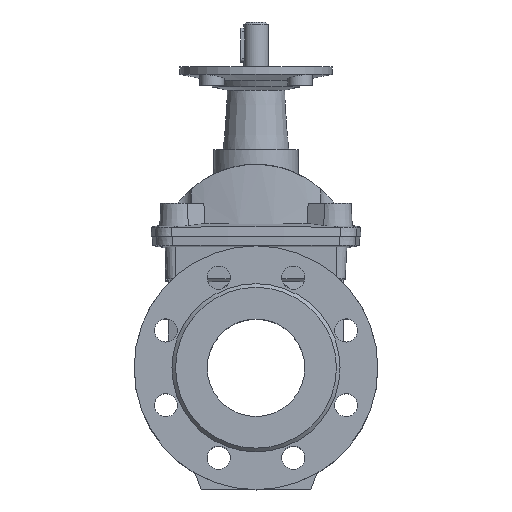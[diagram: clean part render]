
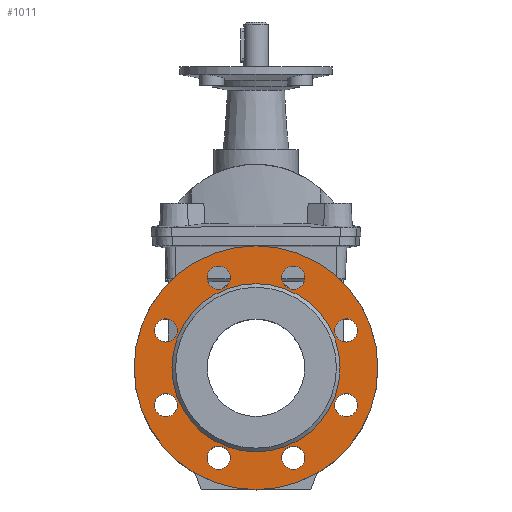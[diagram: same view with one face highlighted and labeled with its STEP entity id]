
A CAD part, top view. The second image highlights one B-rep face of the part: STEP entity #1011.
In plain terms, the highlighted planar face has unit normal (0, 0, 1).
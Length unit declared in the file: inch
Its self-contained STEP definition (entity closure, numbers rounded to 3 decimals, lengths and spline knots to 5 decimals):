
#523 = ORIENTED_EDGE ( 'NONE', *, *, #1793, .T. ) ;
#527 = ORIENTED_EDGE ( 'NONE', *, *, #1784, .F. ) ;
#529 = ORIENTED_EDGE ( 'NONE', *, *, #1782, .F. ) ;
#530 = ORIENTED_EDGE ( 'NONE', *, *, #1792, .F. ) ;
#538 = ORIENTED_EDGE ( 'NONE', *, *, #1758, .F. ) ;
#540 = ORIENTED_EDGE ( 'NONE', *, *, #1769, .T. ) ;
#541 = ORIENTED_EDGE ( 'NONE', *, *, #1776, .T. ) ;
#567 = ORIENTED_EDGE ( 'NONE', *, *, #1788, .T. ) ;
#575 = ORIENTED_EDGE ( 'NONE', *, *, #1765, .F. ) ;
#581 = ORIENTED_EDGE ( 'NONE', *, *, #1777, .T. ) ;
#737 = EDGE_LOOP ( 'NONE', ( #567 ) ) ;
#738 = EDGE_LOOP ( 'NONE', ( #575 ) ) ;
#740 = EDGE_LOOP ( 'NONE', ( #538 ) ) ;
#745 = EDGE_LOOP ( 'NONE', ( #540 ) ) ;
#755 = EDGE_LOOP ( 'NONE', ( #541 ) ) ;
#758 = EDGE_LOOP ( 'NONE', ( #581 ) ) ;
#768 = EDGE_LOOP ( 'NONE', ( #523 ) ) ;
#772 = EDGE_LOOP ( 'NONE', ( #529 ) ) ;
#775 = EDGE_LOOP ( 'NONE', ( #527 ) ) ;
#776 = EDGE_LOOP ( 'NONE', ( #530 ) ) ;
#1011 = ADVANCED_FACE ( 'NONE', ( #6306, #6309, #6304, #6302, #6307, #6310, #6311, #6312, #6313, #6314 ), #4622, .T. ) ;
#1495 = CARTESIAN_POINT ( 'NONE',  ( -1.2053, 2.90986, 3.4252 ) ) ;
#1496 = DIRECTION ( 'NONE',  ( 0., 0., 1. ) ) ;
#1497 = DIRECTION ( 'NONE',  ( 1., 0., 0. ) ) ;
#1510 = CARTESIAN_POINT ( 'NONE',  ( 0., 0., 3.4252 ) ) ;
#1511 = DIRECTION ( 'NONE',  ( 0., 0., 1. ) ) ;
#1512 = DIRECTION ( 'NONE',  ( 0., -1., 0. ) ) ;
#1536 = CARTESIAN_POINT ( 'NONE',  ( 2.90986, 1.2053, 3.4252 ) ) ;
#1537 = DIRECTION ( 'NONE',  ( 0., 0., -1. ) ) ;
#1538 = DIRECTION ( 'NONE',  ( -1., 0., 0. ) ) ;
#1570 = CARTESIAN_POINT ( 'NONE',  ( 1.2053, -2.90986, 3.4252 ) ) ;
#1571 = DIRECTION ( 'NONE',  ( 0., 0., -1. ) ) ;
#1572 = DIRECTION ( 'NONE',  ( -1., 0., 0. ) ) ;
#1574 = CARTESIAN_POINT ( 'NONE',  ( 2.90986, -1.2053, 3.4252 ) ) ;
#1575 = DIRECTION ( 'NONE',  ( 0., 0., -1. ) ) ;
#1576 = DIRECTION ( 'NONE',  ( -1., 0., 0. ) ) ;
#1587 = AXIS2_PLACEMENT_3D ( 'NONE', #4624, #4617, #4626 ) ;
#1758 = EDGE_CURVE ( 'NONE', #9928, #9928, #6598, .T. ) ;
#1765 = EDGE_CURVE ( 'NONE', #9929, #9929, #6611, .T. ) ;
#1769 = EDGE_CURVE ( 'NONE', #9931, #9931, #6618, .T. ) ;
#1776 = EDGE_CURVE ( 'NONE', #9934, #9934, #6621, .T. ) ;
#1777 = EDGE_CURVE ( 'NONE', #9935, #9935, #6626, .T. ) ;
#1782 = EDGE_CURVE ( 'NONE', #9938, #9938, #6631, .T. ) ;
#1784 = EDGE_CURVE ( 'NONE', #9939, #9939, #6634, .T. ) ;
#1788 = EDGE_CURVE ( 'NONE', #9941, #9941, #6633, .T. ) ;
#1792 = EDGE_CURVE ( 'NONE', #9943, #9943, #6637, .T. ) ;
#1793 = EDGE_CURVE ( 'NONE', #9944, #9944, #6642, .T. ) ;
#3205 = CARTESIAN_POINT ( 'NONE',  ( -2.90986, 1.2053, 3.4252 ) ) ;
#3206 = DIRECTION ( 'NONE',  ( 0., 0., 1. ) ) ;
#3207 = DIRECTION ( 'NONE',  ( 1., 0., 0. ) ) ;
#3212 = CARTESIAN_POINT ( 'NONE',  ( -2.90986, -1.2053, 3.4252 ) ) ;
#3213 = DIRECTION ( 'NONE',  ( 0., 0., 1. ) ) ;
#3214 = DIRECTION ( 'NONE',  ( 1., 0., 0. ) ) ;
#3225 = CARTESIAN_POINT ( 'NONE',  ( 0., 0., 3.4252 ) ) ;
#3226 = DIRECTION ( 'NONE',  ( 0., 0., 1. ) ) ;
#3227 = DIRECTION ( 'NONE',  ( 0., -1., 0. ) ) ;
#3236 = CARTESIAN_POINT ( 'NONE',  ( -1.2053, -2.90986, 3.4252 ) ) ;
#3237 = DIRECTION ( 'NONE',  ( 0., 0., 1. ) ) ;
#3238 = DIRECTION ( 'NONE',  ( 1., 0., 0. ) ) ;
#3240 = CARTESIAN_POINT ( 'NONE',  ( 1.2053, 2.90986, 3.4252 ) ) ;
#3241 = DIRECTION ( 'NONE',  ( 0., 0., -1. ) ) ;
#3242 = DIRECTION ( 'NONE',  ( -1., 0., 0. ) ) ;
#4617 = DIRECTION ( 'NONE',  ( 0., 0., 1. ) ) ;
#4622 = PLANE ( 'NONE',  #1587 ) ;
#4624 = CARTESIAN_POINT ( 'NONE',  ( 0., 2.71654, 3.4252 ) ) ;
#4626 = DIRECTION ( 'NONE',  ( 0., -1., 0. ) ) ;
#5922 = CARTESIAN_POINT ( 'NONE',  ( -0.83129, 2.90986, 3.4252 ) ) ;
#5923 = CARTESIAN_POINT ( 'NONE',  ( 0., -2.71654, 3.4252 ) ) ;
#5925 = CARTESIAN_POINT ( 'NONE',  ( 2.53584, 1.2053, 3.4252 ) ) ;
#5928 = CARTESIAN_POINT ( 'NONE',  ( 0.83129, -2.90986, 3.4252 ) ) ;
#5929 = CARTESIAN_POINT ( 'NONE',  ( 2.53584, -1.2053, 3.4252 ) ) ;
#5932 = CARTESIAN_POINT ( 'NONE',  ( -2.53584, 1.2053, 3.4252 ) ) ;
#5933 = CARTESIAN_POINT ( 'NONE',  ( -2.53584, -1.2053, 3.4252 ) ) ;
#5935 = CARTESIAN_POINT ( 'NONE',  ( 0., -3.93701, 3.4252 ) ) ;
#5937 = CARTESIAN_POINT ( 'NONE',  ( -0.83129, -2.90986, 3.4252 ) ) ;
#5938 = CARTESIAN_POINT ( 'NONE',  ( 0.83129, 2.90986, 3.4252 ) ) ;
#6302 = FACE_BOUND ( 'NONE', #768, .T. ) ;
#6304 = FACE_BOUND ( 'NONE', #745, .T. ) ;
#6306 = FACE_BOUND ( 'NONE', #755, .T. ) ;
#6307 = FACE_BOUND ( 'NONE', #776, .T. ) ;
#6309 = FACE_BOUND ( 'NONE', #758, .T. ) ;
#6310 = FACE_BOUND ( 'NONE', #775, .T. ) ;
#6311 = FACE_BOUND ( 'NONE', #772, .T. ) ;
#6312 = FACE_BOUND ( 'NONE', #740, .T. ) ;
#6313 = FACE_OUTER_BOUND ( 'NONE', #737, .T. ) ;
#6314 = FACE_BOUND ( 'NONE', #738, .T. ) ;
#6598 = CIRCLE ( 'NONE', #9041, 0.37402 ) ;
#6611 = CIRCLE ( 'NONE', #9042, 2.71654 ) ;
#6618 = CIRCLE ( 'NONE', #9044, 0.37402 ) ;
#6621 = CIRCLE ( 'NONE', #9049, 0.37402 ) ;
#6626 = CIRCLE ( 'NONE', #9050, 0.37402 ) ;
#6631 = CIRCLE ( 'NONE', #9053, 0.37402 ) ;
#6633 = CIRCLE ( 'NONE', #9056, 3.93701 ) ;
#6634 = CIRCLE ( 'NONE', #9054, 0.37402 ) ;
#6637 = CIRCLE ( 'NONE', #9058, 0.37402 ) ;
#6642 = CIRCLE ( 'NONE', #9059, 0.37402 ) ;
#9041 = AXIS2_PLACEMENT_3D ( 'NONE', #1495, #1496, #1497 ) ;
#9042 = AXIS2_PLACEMENT_3D ( 'NONE', #1510, #1511, #1512 ) ;
#9044 = AXIS2_PLACEMENT_3D ( 'NONE', #1536, #1537, #1538 ) ;
#9049 = AXIS2_PLACEMENT_3D ( 'NONE', #1570, #1571, #1572 ) ;
#9050 = AXIS2_PLACEMENT_3D ( 'NONE', #1574, #1575, #1576 ) ;
#9053 = AXIS2_PLACEMENT_3D ( 'NONE', #3205, #3206, #3207 ) ;
#9054 = AXIS2_PLACEMENT_3D ( 'NONE', #3212, #3213, #3214 ) ;
#9056 = AXIS2_PLACEMENT_3D ( 'NONE', #3225, #3226, #3227 ) ;
#9058 = AXIS2_PLACEMENT_3D ( 'NONE', #3236, #3237, #3238 ) ;
#9059 = AXIS2_PLACEMENT_3D ( 'NONE', #3240, #3241, #3242 ) ;
#9928 = VERTEX_POINT ( 'NONE', #5922 ) ;
#9929 = VERTEX_POINT ( 'NONE', #5923 ) ;
#9931 = VERTEX_POINT ( 'NONE', #5925 ) ;
#9934 = VERTEX_POINT ( 'NONE', #5928 ) ;
#9935 = VERTEX_POINT ( 'NONE', #5929 ) ;
#9938 = VERTEX_POINT ( 'NONE', #5932 ) ;
#9939 = VERTEX_POINT ( 'NONE', #5933 ) ;
#9941 = VERTEX_POINT ( 'NONE', #5935 ) ;
#9943 = VERTEX_POINT ( 'NONE', #5937 ) ;
#9944 = VERTEX_POINT ( 'NONE', #5938 ) ;
